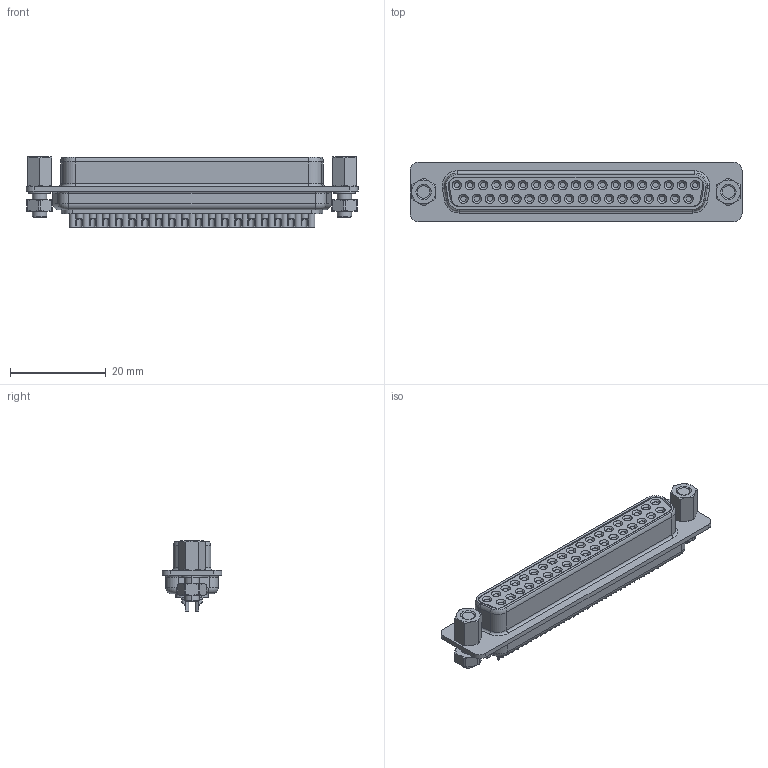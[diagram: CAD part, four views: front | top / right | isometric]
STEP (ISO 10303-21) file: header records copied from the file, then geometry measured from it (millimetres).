
FILE_DESCRIPTION (( 'STEP AP203' ), '1' );
FILE_NAME ('17JE-13370-02(D3A)A.STEP', '2021-07-30T01:35:44', ( '' ), ( '' ), 'SwSTEP 2.0', 'SolidWorks 2018', '' );
FILE_SCHEMA (( 'CONFIG_CONTROL_DESIGN' ));
Length unit declared in the file: millimetre
Products named in the file (1): 17JE-13370-02(D3A)A
Bounding box: 69.2 x 12.4 x 14.6 mm (x, y, z)
Volume: 6358.7 mm3; surface area: 7295.2 mm2
Topology: 1 solids, 1 shells, 766 faces, 1801 edges, 1051 vertices
Faces by surface type: cylinder 293, plane 236, cone 177, torus 56, bspline 4
Entity records: 23318 total; most frequent: CARTESIAN_POINT 5965, DIRECTION 3753, ORIENTED_EDGE 3454, EDGE_CURVE 1727, AXIS2_PLACEMENT_3D 1441, VERTEX_POINT 1051, VECTOR 871, LINE 871
